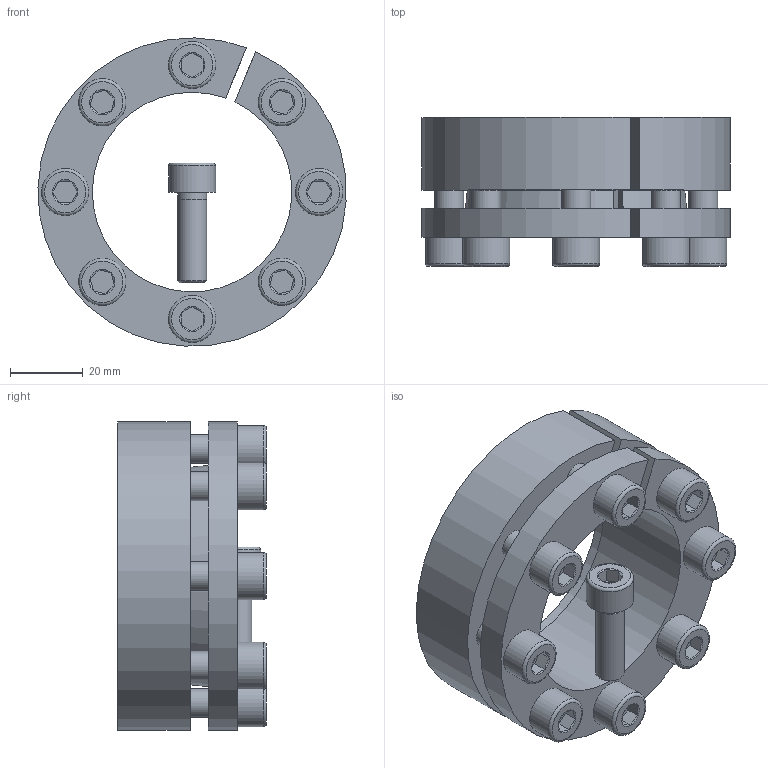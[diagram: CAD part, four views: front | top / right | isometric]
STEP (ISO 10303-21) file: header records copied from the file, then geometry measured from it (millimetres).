
FILE_DESCRIPTION( ( 'Unknown' ), '1' );
FILE_NAME( 'C:/Dokumente und Einstellungen/Sven/Desktop/homepage/cad - homepage/KBS13/KBS 13 - 55 x 85.stp', 'Unknown', ( 'Unknown' ), ( 'Unknown' ), 'XStep 1.0', 'Unknown', ' ' );
FILE_SCHEMA( ( 'automotive_design' ) );
Length unit declared in the file: millimetre
Products named in the file (3): Assem1; KBS 13 - 55 x 85; ISO EN DIN 4762 M8x25
Bounding box: 84.89 x 41 x 84.95 mm (x, y, z)
Volume: 183769.8 mm3; surface area: 73597.9 mm2
Topology: 11 solids, 11 shells, 281 faces, 573 edges, 350 vertices
Faces by surface type: plane 122, cylinder 74, cone 67, torus 18
Full cylindrical faces by diameter (mm): 7 x9, 8 x50, 13 x9
Entity records: 1774 total; most frequent: CARTESIAN_POINT 293, DIRECTION 272, ORIENTED_EDGE 194, AXIS2_PLACEMENT_3D 122, EDGE_LOOP 112, EDGE_CURVE 97, FACE_OUTER_BOUND 75, VERTEX_POINT 75
